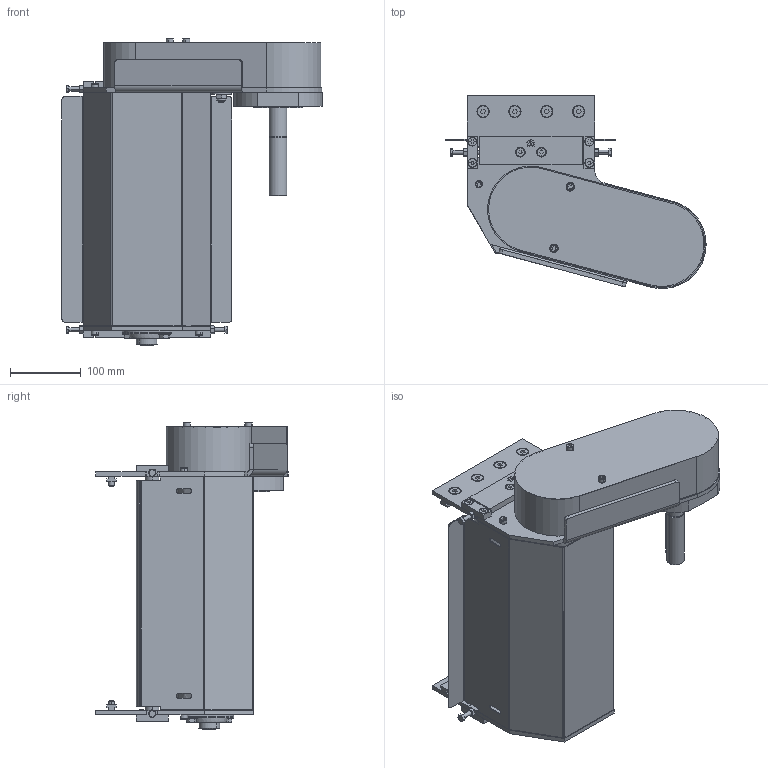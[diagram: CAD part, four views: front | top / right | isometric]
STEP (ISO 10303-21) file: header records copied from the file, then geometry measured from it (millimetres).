
FILE_DESCRIPTION (( 'STEP AP203' ), '1' );
FILE_NAME ('084.050.KCRD.49.300.STEP', '2019-07-30T06:40:48', ( '' ), ( '' ), 'SwSTEP 2.0', 'SolidWorks 2018', '' );
FILE_SCHEMA (( 'CONFIG_CONTROL_DESIGN' ));
Length unit declared in the file: millimetre
Products named in the file (1): 084.050.KCRD.49.300
Bounding box: 367.47 x 272.33 x 434 mm (x, y, z)
Surface area: 983882.6 mm2 (no closed solid volume)
Topology: 0 solids, 95 shells, 921 faces, 2822 edges, 1985 vertices
Faces by surface type: plane 500, cylinder 229, cone 168, torus 20, sphere 4
Entity records: 32135 total; most frequent: CARTESIAN_POINT 6621, DIRECTION 5466, ORIENTED_EDGE 4590, EDGE_CURVE 2818, VERTEX_POINT 1983, AXIS2_PLACEMENT_3D 1902, LINE 1662, VECTOR 1662
